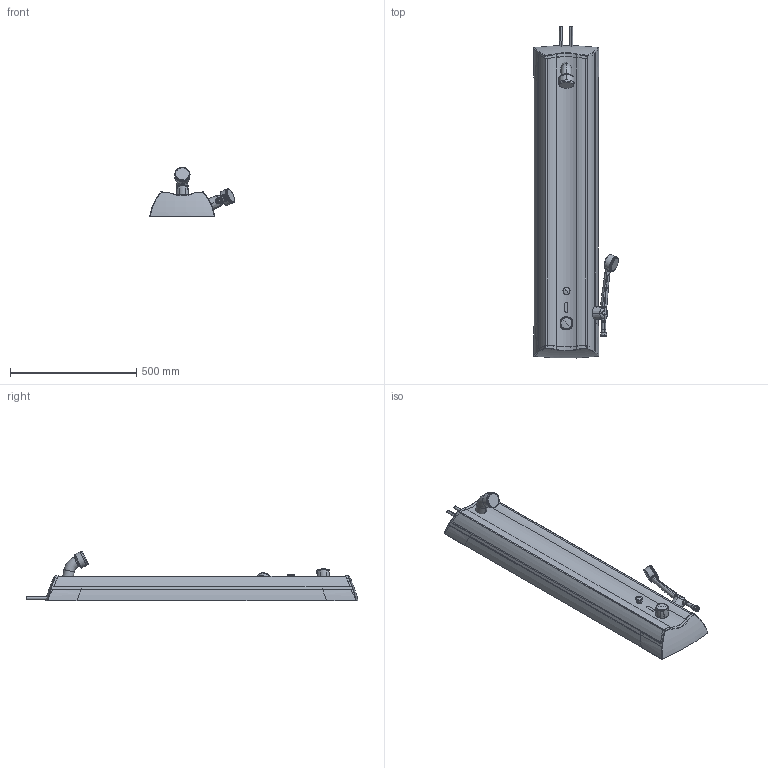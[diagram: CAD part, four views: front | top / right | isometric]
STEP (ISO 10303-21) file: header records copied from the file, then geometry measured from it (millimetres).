
FILE_DESCRIPTION (( 'STEP AP203' ), '1' );
FILE_NAME ('6662S+6662STX.STEP', '2018-07-11T04:33:21', ( '' ), ( '' ), 'SwSTEP 2.0', 'SolidWorks 2016', '' );
FILE_SCHEMA (( 'CONFIG_CONTROL_DESIGN' ));
Length unit declared in the file: millimetre
Products named in the file (1): 6662S+6662STX
Bounding box: 335.47 x 1313.02 x 196.6 mm (x, y, z)
Volume: 24296839.1 mm3; surface area: 1222708 mm2
Topology: 18 solids, 20 shells, 539 faces, 1621 edges, 1114 vertices
Faces by surface type: bspline 188, cylinder 133, plane 85, torus 83, sphere 28, cone 22
Entity records: 40534 total; most frequent: CARTESIAN_POINT 28495, ORIENTED_EDGE 3072, DIRECTION 1766, EDGE_CURVE 1536, VERTEX_POINT 1067, B_SPLINE_CURVE_WITH_KNOTS 810, AXIS2_PLACEMENT_3D 765, EDGE_LOOP 551
